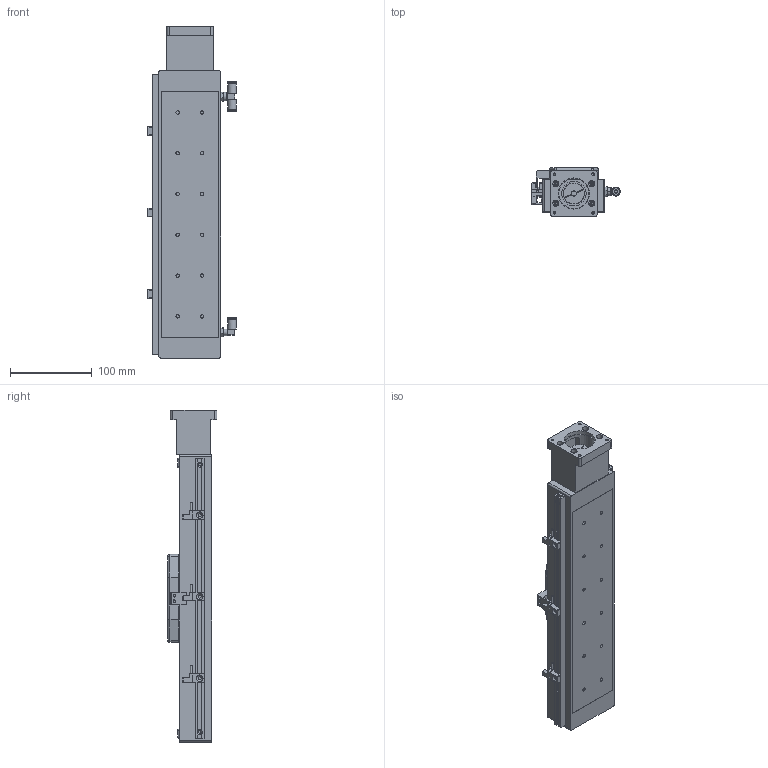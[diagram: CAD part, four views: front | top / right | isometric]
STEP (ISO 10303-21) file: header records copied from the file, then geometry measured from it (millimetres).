
FILE_DESCRIPTION((''),'2;1');
FILE_NAME('E:\catalogue and flyer\actuator catalogue 2015\dwg fr wg\UIA076CR9DC\UIA076CR9DC-stp file 05May16\UIA076CR9DC-200-R12_ _-M23-P13-C10-S.stp','2016-05-05T12:02:25',('h029'),(''),'Autodesk Inventor 11','Autodesk Inventor 11','');
FILE_SCHEMA(('AUTOMOTIVE_DESIGN { 1 0 10303 214 1 1 1 1 }'));
Length unit declared in the file: millimetre
Products named in the file (14): UIA076CR9DC-200; UIA076CR9DC-body; carriage-076CR; SOH25C; side 2; side 1; centre piece; 26-100 0071 sensor flag; GWL4-M5; GWT4-M5; 26-100 0110-M23; Sensor rail; Sensor Bracket ; Sensor
Assembly tree (17 placements, depth 3):
  UIA076CR9DC-200
    UIA076CR9DC-body
    carriage-076CR
    SOH25C
      side 2
      side 1
      centre piece
    26-100 0071 sensor flag
    GWL4-M5
    GWT4-M5
    26-100 0110-M23
    Sensor rail
    Sensor Bracket   x3
    Sensor  x3
Bounding box: 108.1 x 61 x 407 mm (x, y, z)
Volume: 1258801.3 mm3; surface area: 181114.4 mm2
Topology: 18 solids, 18 shells, 681 faces, 1770 edges, 1143 vertices
Faces by surface type: plane 355, cylinder 152, bspline 148, sphere 16, cone 10
Full cylindrical faces by diameter (mm): 2.459 x4, 2.5 x3, 8 x2, 25.5 x3, 30 x1, 37 x1, 38.1 x1
Entity records: 19313 total; most frequent: CARTESIAN_POINT 5527, DIRECTION 2749, ORIENTED_EDGE 2658, EDGE_CURVE 1329, AXIS2_PLACEMENT_3D 970, VERTEX_POINT 913, VECTOR 809, LINE 809
